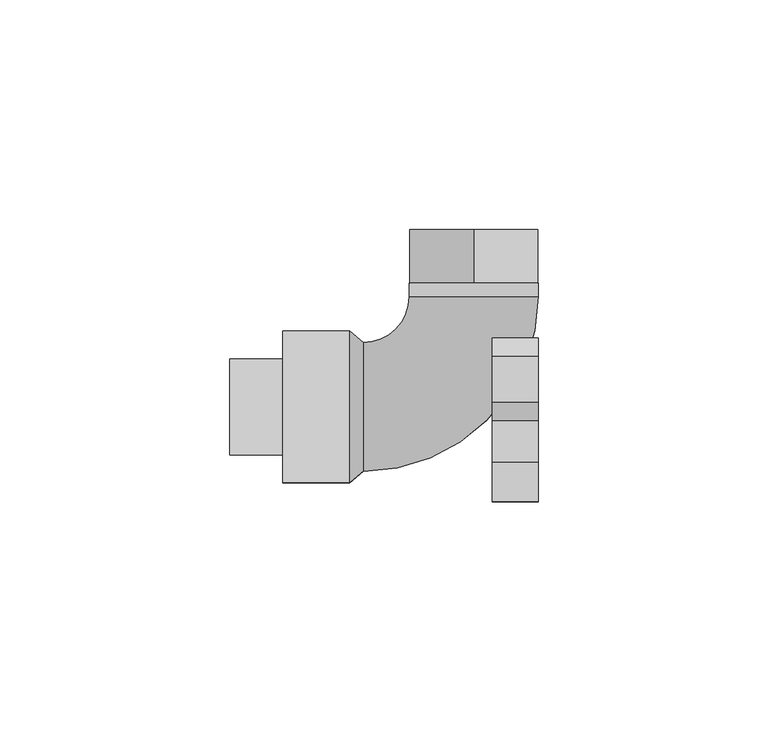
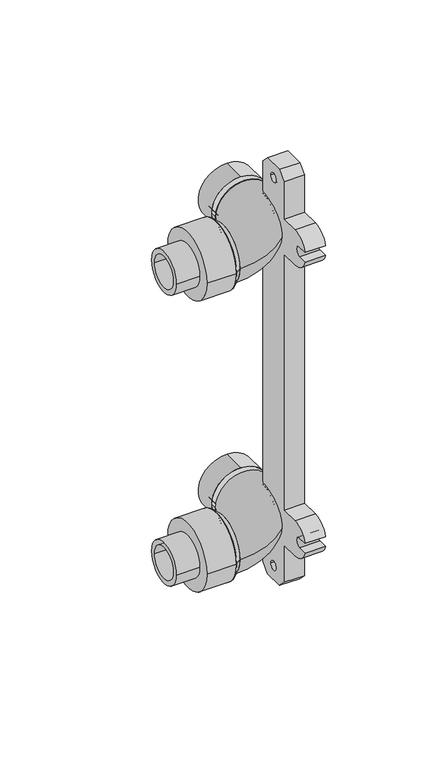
"""IFC4 building model written with IfcOpenShell, lengths in millimetres: pipe fitting geometry, 44_Угольник комбинированный с креплением двойной НР : Белый цвет."""

from ifc_helpers import new_model, si_unit, point, frame, frame_2d, origin, origin_2d, place, context, project, spatial, polyline, circle_curve, ellipse_curve, trimmed, segment, composite_curve, outline, extrude, source, transform, mapped, element, save
from ifc_brep_helpers import plane_surface, revolved_surface, advanced_brep


def pipe_fitting_814f7617(model_context):
    return source(origin(), model_context, "Body", "SolidModel", [
        extrude(outline(composite_curve([segment(polyline([(-2.9486282, 141.0), (-11.9486282, 141.0)]), True, "CONTINUOUS"), segment(trimmed(circle_curve(frame_2d((-11.9486282, 150.0)), 9.0), [point((-11.9486282, 141.0))], [point((-20.5944365, 147.5))], False, "CARTESIAN"), True, "CONTINUOUS"), segment(polyline([(-20.5944365, 147.5), (-15.9486282, 147.5)]), True, "CONTINUOUS"), segment(trimmed(circle_curve(frame_2d((-15.9486282, 150.0)), 2.5), [point((-15.9486282, 147.5))], [point((-15.9486282, 152.5))], True, "CARTESIAN"), True, "CONTINUOUS"), segment(polyline([(-15.9486282, 152.5), (-20.5944365, 152.5)]), True, "CONTINUOUS"), segment(trimmed(circle_curve(frame_2d((-11.9486282, 150.0)), 9.0), [point((-20.5944365, 152.5))], [point((-11.9486282, 159.0))], False, "CARTESIAN"), True, "CONTINUOUS"), segment(polyline([(-11.9486282, 159.0), (-2.9486282, 159.0), (-2.9486282, 178.25), (1.0513718, 182.25), (11.0513718, 182.25), (15.0513718, 178.25), (15.0513718, -28.25), (11.0513718, -32.25), (1.0513718, -32.25), (-2.9486282, -28.25), (-2.9486282, -9.0), (-11.9486282, -9.0)]), True, "CONTINUOUS"), segment(trimmed(circle_curve(frame_2d((-11.9486282, 0.0)), 9.0), [point((-11.9486282, -9.0))], [point((-20.5944365, -2.5))], False, "CARTESIAN"), True, "CONTINUOUS"), segment(polyline([(-20.5944365, -2.5), (-15.9486282, -2.5)]), True, "CONTINUOUS"), segment(trimmed(circle_curve(frame_2d((-15.9486282, 0.0)), 2.5), [point((-15.9486282, -2.5))], [point((-15.9486282, 2.5))], True, "CARTESIAN"), True, "CONTINUOUS"), segment(polyline([(-15.9486282, 2.5), (-20.5944365, 2.5)]), True, "CONTINUOUS"), segment(trimmed(circle_curve(frame_2d((-11.9486282, 0.0)), 9.0), [point((-20.5944365, 2.5))], [point((-11.9486282, 9.0))], False, "CARTESIAN"), True, "CONTINUOUS"), segment(polyline([(-11.9486282, 9.0), (-2.9486282, 9.0), (-2.9486282, 141.0)]), True, "CONTINUOUS")], self_intersect=False), holes=[composite_curve([segment(trimmed(circle_curve(frame_2d((6.0513718, 175.0)), 2.25), [point((3.8013718, 175.0))], [point((8.3013718, 175.0))], True, "CARTESIAN"), True, "CONTINUOUS"), segment(trimmed(circle_curve(frame_2d((6.0513718, 175.0)), 2.25), [point((8.3013718, 175.0))], [point((3.8013718, 175.0))], True, "CARTESIAN"), True, "CONTINUOUS")], self_intersect=False), composite_curve([segment(trimmed(circle_curve(frame_2d((6.0513718, -25.0)), 2.25), [point((3.8013718, -25.0))], [point((8.3013718, -25.0))], True, "CARTESIAN"), True, "CONTINUOUS"), segment(trimmed(circle_curve(frame_2d((6.0513718, -25.0)), 2.25), [point((8.3013718, -25.0))], [point((3.8013718, -25.0))], True, "CARTESIAN"), True, "CONTINUOUS")], self_intersect=False)]), frame((7.65, 0.0, 0.0), z_axis=(1.0, 0.0, 0.0), x_axis=(0.0, 1.0, 0.0)), (0.0, 0.0, 1.0), 10.0),
        advanced_brep(
        [(-23.35, -7.85, 150.0), (-20.35, -9.95, 150.0), (-20.35, 10.05, 150.0), (-23.35, 7.95, 150.0), (-20.35, -13.95, 150.0), (-20.35, 14.05, 150.0), (-23.35, -16.45, 150.0), (-23.35, 16.55, 150.0)],
        [
            (0, 1),
            (1, 2, circle_curve(frame((-20.35, 0.05, 150.0), z_axis=(1.0, 0.0, 1.2407852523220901e-12), x_axis=(0.0, -1.0, 0.0)), 10.0)),
            (2, 3),
            (3, 0, circle_curve(frame((-23.35, 0.05, 150.0), z_axis=(-1.0, 0.0, -1.2407852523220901e-12), x_axis=(0.0, -1.0, 0.0)), 7.9)),
            (0, 3, circle_curve(frame((-23.35, 0.05, 150.0), z_axis=(-1.0, 0.0, -1.2407852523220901e-12), x_axis=(0.0, 1.0, 0.0)), 7.9)),
            (2, 1, circle_curve(frame((-20.35, 0.05, 150.0), z_axis=(1.0, 0.0, 1.2407852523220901e-12), x_axis=(0.0, 1.0, 0.0)), 10.0)),
            (4, 5, circle_curve(frame((-20.35, 0.05, 150.0), z_axis=(1.0, 0.0, 0.0), x_axis=(0.0, -1.0, 0.0)), 14.0)),
            (5, 4, circle_curve(frame((-20.35, 0.05, 150.0), z_axis=(1.0, 0.0, 0.0), x_axis=(0.0, 1.0, 0.0)), 14.0)),
            (6, 7, circle_curve(frame((-23.35, 0.05, 150.0), z_axis=(-1.0, 0.0, 0.0), x_axis=(0.0, 1.0, 0.0)), 16.5)),
            (7, 6, circle_curve(frame((-23.35, 0.05, 150.0), z_axis=(-1.0, 0.0, 0.0), x_axis=(0.0, -1.0, 0.0)), 16.5)),
            (4, 6),
            (7, 5),
        ],
        [
            revolved_surface(polyline([(-20.35, -9.95, 150.0), (-23.35, -7.8500000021, 150.0)]), (-34.6357143, 0.05, 150.0), (1.0, 0.0, 1.2407852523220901e-12)),
            plane_surface(frame((-20.35, 0.05, 150.0), z_axis=(1.0, 0.0, 0.0), x_axis=(0.0, 0.0, -1.0))),
            plane_surface(frame((-23.35, 0.05, 150.0), z_axis=(-1.0, 0.0, 0.0), x_axis=(0.0, 0.0, -1.0))),
            revolved_surface(polyline([(-20.35, -13.95, 150.0), (-23.35, -16.45, 150.0)]), (-3.55, 0.05, 150.0), (-1.0, 0.0, 0.0)),
            revolved_surface(polyline([(-20.35, 14.05, 150.0), (-23.35, 16.55, 150.0)]), (-3.55, 0.05, 150.0), (-1.0, 0.0, 0.0)),
        ],
        [
            (0, [[1, 2, 3, 4]]),
            (0, [[-1, 5, -3, 6]]),
            (1, [[7, 8], [-2, -6]]),
            (2, [[9, 10], [-4, -5]]),
            (3, [[-7, 11, -10, 12]]),
            (4, [[-8, -12, -9, -11]]),
        ],
    ),
        advanced_brep(
        [(-20.35, -13.95, 150.0), (-20.35, 14.05, 150.0), (-20.35, 10.05, 150.0), (-20.35, -9.95, 150.0), (-23.35, -16.45, 150.0), (-23.35, 16.55, 150.0), (-23.35, -7.85, 150.0), (-23.35, 7.95, 150.0)],
        [
            (0, 1, circle_curve(frame((-20.35, 0.05, 150.0), z_axis=(1.0, 0.0, 0.0), x_axis=(0.0, -1.0, 0.0)), 14.0)),
            (1, 0, circle_curve(frame((-20.35, 0.05, 150.0), z_axis=(1.0, 0.0, 0.0), x_axis=(0.0, 1.0, 0.0)), 14.0)),
            (2, 3, circle_curve(frame((-20.35, 0.05, 150.0), z_axis=(-1.0, 0.0, -1.2407852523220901e-12), x_axis=(0.0, -1.0, 0.0)), 10.0)),
            (3, 2, circle_curve(frame((-20.35, 0.05, 150.0), z_axis=(-1.0, 0.0, -1.2407852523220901e-12), x_axis=(0.0, 1.0, 0.0)), 10.0)),
            (4, 5, circle_curve(frame((-23.35, 0.05, 150.0), z_axis=(-1.0, 0.0, 0.0), x_axis=(0.0, 1.0, 0.0)), 16.5)),
            (5, 4, circle_curve(frame((-23.35, 0.05, 150.0), z_axis=(-1.0, 0.0, 0.0), x_axis=(0.0, -1.0, 0.0)), 16.5)),
            (6, 7, circle_curve(frame((-23.35, 0.05, 150.0), z_axis=(1.0, 0.0, 1.2407852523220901e-12), x_axis=(0.0, -1.0, 0.0)), 7.9)),
            (7, 6, circle_curve(frame((-23.35, 0.05, 150.0), z_axis=(1.0, 0.0, 1.2407852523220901e-12), x_axis=(0.0, 1.0, 0.0)), 7.9)),
            (0, 4),
            (5, 1),
            (6, 3),
            (2, 7),
        ],
        [
            plane_surface(frame((-20.35, 0.05, 150.0), z_axis=(1.0, 0.0, 0.0), x_axis=(0.0, 0.0, -1.0))),
            plane_surface(frame((-23.35, 0.05, 150.0), z_axis=(-1.0, 0.0, 0.0), x_axis=(0.0, 0.0, -1.0))),
            revolved_surface(polyline([(-20.35, -13.95, 150.0), (-23.35, -16.45, 150.0)]), (-3.55, 0.05, 150.0), (-1.0, 0.0, 0.0)),
            revolved_surface(polyline([(-20.35, 14.05, 150.0), (-23.35, 16.55, 150.0)]), (-3.55, 0.05, 150.0), (-1.0, 0.0, 0.0)),
            revolved_surface(polyline([(-20.35, -9.95, 150.0), (-23.35, -7.8500000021, 150.0)]), (-34.6357143, 0.05, 150.0), (1.0, 0.0, 1.2407852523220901e-12)),
        ],
        [
            (0, [[1, 2], [3, 4]]),
            (1, [[5, 6], [7, 8]]),
            (2, [[-1, 9, -6, 10]]),
            (3, [[-2, -10, -5, -9]]),
            (4, [[11, -3, 12, -7]]),
            (4, [[-11, -8, -12, -4]]),
        ],
    ),
        extrude(outline(composite_curve([segment(trimmed(circle_curve(frame_2d((0.0, 150.0)), 10.4), [point((-10.4, 150.0))], [point((10.4, 150.0))], False, "CARTESIAN"), True, "CONTINUOUS"), segment(trimmed(circle_curve(frame_2d((0.0, 150.0)), 10.4), [point((10.4, 150.0))], [point((-10.4, 150.0))], False, "CARTESIAN"), True, "CONTINUOUS")], self_intersect=False), holes=[composite_curve([segment(trimmed(circle_curve(frame_2d((0.0, 150.0)), 7.9), [point((-7.9, 150.0))], [point((7.9, 150.0))], True, "CARTESIAN"), True, "CONTINUOUS"), segment(trimmed(circle_curve(frame_2d((0.0, 150.0)), 7.9), [point((7.9, 150.0))], [point((-7.9, 150.0))], True, "CARTESIAN"), True, "CONTINUOUS")], self_intersect=False)]), frame((-49.35, 0.0, 0.0), z_axis=(1.0, 0.0, 0.0), x_axis=(0.0, 1.0, 0.0)), (0.0, 0.0, 1.0), 11.5),
        extrude(outline(composite_curve([segment(trimmed(circle_curve(frame_2d((0.05, 150.0)), 16.5), [point((-16.45, 150.0))], [point((16.55, 150.0))], False, "CARTESIAN"), True, "CONTINUOUS"), segment(trimmed(circle_curve(frame_2d((0.05, 150.0)), 16.5), [point((16.55, 150.0))], [point((-16.45, 150.0))], False, "CARTESIAN"), True, "CONTINUOUS")], self_intersect=False), holes=[composite_curve([segment(trimmed(circle_curve(frame_2d((0.05, 150.0)), 7.9), [point((-7.85, 150.0))], [point((7.95, 150.0))], True, "CARTESIAN"), True, "CONTINUOUS"), segment(trimmed(circle_curve(frame_2d((0.05, 150.0)), 7.9), [point((7.95, 150.0))], [point((-7.85, 150.0))], True, "CARTESIAN"), True, "CONTINUOUS")], self_intersect=False)]), frame((-37.85, 0.0, 0.0), z_axis=(1.0, 0.0, 0.0), x_axis=(0.0, 1.0, 0.0)), (0.0, 0.0, 1.0), 14.5),
        extrude(outline(composite_curve([segment(trimmed(circle_curve(frame_2d((0.0, 150.0)), 10.4), [point((-10.4, 150.0))], [point((10.4, 150.0))], False, "CARTESIAN"), True, "CONTINUOUS"), segment(trimmed(circle_curve(frame_2d((0.0, 150.0)), 10.4), [point((10.4, 150.0))], [point((-10.4, 150.0))], False, "CARTESIAN"), True, "CONTINUOUS")], self_intersect=False), holes=[composite_curve([segment(trimmed(circle_curve(frame_2d((0.0, 150.0)), 7.9), [point((-7.9, 150.0))], [point((7.9, 150.0))], True, "CARTESIAN"), True, "CONTINUOUS"), segment(trimmed(circle_curve(frame_2d((0.0, 150.0)), 7.9), [point((7.9, 150.0))], [point((-7.9, 150.0))], True, "CARTESIAN"), True, "CONTINUOUS")], self_intersect=False)]), frame((-49.35, 0.0, 0.0), z_axis=(1.0, 0.0, 0.0), x_axis=(0.0, 1.0, 0.0)), (0.0, 0.0, 1.0), 11.5),
        extrude(outline(composite_curve([segment(trimmed(circle_curve(frame_2d((0.05, 150.0)), 16.5), [point((-16.45, 150.0))], [point((16.55, 150.0))], False, "CARTESIAN"), True, "CONTINUOUS"), segment(trimmed(circle_curve(frame_2d((0.05, 150.0)), 16.5), [point((16.55, 150.0))], [point((-16.45, 150.0))], False, "CARTESIAN"), True, "CONTINUOUS")], self_intersect=False), holes=[composite_curve([segment(trimmed(circle_curve(frame_2d((0.05, 150.0)), 7.9), [point((-7.85, 150.0))], [point((7.95, 150.0))], True, "CARTESIAN"), True, "CONTINUOUS"), segment(trimmed(circle_curve(frame_2d((0.05, 150.0)), 7.9), [point((7.95, 150.0))], [point((-7.85, 150.0))], True, "CARTESIAN"), True, "CONTINUOUS")], self_intersect=False)]), frame((-37.85, 0.0, 0.0), z_axis=(1.0, 0.0, 0.0), x_axis=(0.0, 1.0, 0.0)), (0.0, 0.0, 1.0), 14.5),
        advanced_brep(
        [(-20.35, -13.95, 0.0), (-20.35, 14.05, 0.0), (-20.35, 10.05, 0.0), (-20.35, -9.95, 0.0), (-23.35, -16.45, 0.0), (-23.35, 16.55, 0.0), (-23.35, -7.85, 0.0), (-23.35, 7.95, 0.0)],
        [
            (0, 1, circle_curve(frame((-20.35, 0.05, 0.0), z_axis=(1.0, 0.0, 0.0), x_axis=(0.0, -1.0, 0.0)), 14.0)),
            (1, 0, circle_curve(frame((-20.35, 0.05, 0.0), z_axis=(1.0, 0.0, 0.0), x_axis=(0.0, 1.0, 0.0)), 14.0)),
            (2, 3, circle_curve(frame((-20.35, 0.05, 0.0), z_axis=(-1.0, 0.0, -1.2355450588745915e-12), x_axis=(0.0, -1.0, 0.0)), 10.0)),
            (3, 2, circle_curve(frame((-20.35, 0.05, 0.0), z_axis=(-1.0, 0.0, -1.2355450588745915e-12), x_axis=(0.0, 1.0, 0.0)), 10.0)),
            (4, 5, circle_curve(frame((-23.35, 0.05, 0.0), z_axis=(-1.0, 0.0, 0.0), x_axis=(0.0, 1.0, 0.0)), 16.5)),
            (5, 4, circle_curve(frame((-23.35, 0.05, 0.0), z_axis=(-1.0, 0.0, 0.0), x_axis=(0.0, -1.0, 0.0)), 16.5)),
            (6, 7, circle_curve(frame((-23.35, 0.05, 0.0), z_axis=(1.0, 0.0, 1.2355450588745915e-12), x_axis=(0.0, -1.0, 0.0)), 7.9)),
            (7, 6, circle_curve(frame((-23.35, 0.05, 0.0), z_axis=(1.0, 0.0, 1.2355450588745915e-12), x_axis=(0.0, 1.0, 0.0)), 7.9)),
            (0, 4),
            (5, 1),
            (6, 3),
            (2, 7),
        ],
        [
            plane_surface(frame((-20.35, 0.05, 0.0), z_axis=(1.0, 0.0, 0.0), x_axis=(0.0, 0.0, -1.0))),
            plane_surface(frame((-23.35, 0.05, 0.0), z_axis=(-1.0, 0.0, 0.0), x_axis=(0.0, 0.0, -1.0))),
            revolved_surface(polyline([(-20.35, -13.95, 0.0), (-23.35, -16.45, 0.0)]), (-3.55, 0.05, 0.0), (-1.0, 0.0, 0.0)),
            revolved_surface(polyline([(-20.35, 14.05, 0.0), (-23.35, 16.55, 0.0)]), (-3.55, 0.05, 0.0), (-1.0, 0.0, 0.0)),
            revolved_surface(polyline([(-20.35, -9.95, 0.0), (-23.35, -7.8500000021, 0.0)]), (-34.6357143, 0.05, 0.0), (1.0, 0.0, 1.2355450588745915e-12)),
        ],
        [
            (0, [[1, 2], [3, 4]]),
            (1, [[5, 6], [7, 8]]),
            (2, [[-1, 9, -6, 10]]),
            (3, [[-2, -10, -5, -9]]),
            (4, [[11, -3, 12, -7]]),
            (4, [[-11, -8, -12, -4]]),
        ],
    ),
        extrude(outline(composite_curve([segment(trimmed(circle_curve(frame_2d((150.0, 3.65)), 14.0), [point((150.0, -10.35))], [point((150.0, 17.65))], False, "CARTESIAN"), True, "CONTINUOUS"), segment(trimmed(circle_curve(frame_2d((150.0, 3.65)), 14.0), [point((150.0, 17.65))], [point((150.0, -10.35))], False, "CARTESIAN"), True, "CONTINUOUS")], self_intersect=False), holes=[composite_curve([segment(trimmed(circle_curve(frame_2d((150.0, 3.65)), 10.0), [point((150.0, 13.65))], [point((150.0, -6.35))], True, "CARTESIAN"), True, "CONTINUOUS"), segment(trimmed(circle_curve(frame_2d((150.0, 3.65)), 10.0), [point((150.0, -6.35))], [point((150.0, 13.65))], True, "CARTESIAN"), True, "CONTINUOUS")], self_intersect=False)]), frame((0.0, 24.0, 0.0), z_axis=(0.0, 1.0, 0.0), x_axis=(0.0, 0.0, 1.0)), (0.0, 0.0, 1.0), 3.0),
        extrude(outline(composite_curve([segment(trimmed(circle_curve(origin_2d(), 10.4), [point((-10.4, 0.0))], [point((10.4, 0.0))], False, "CARTESIAN"), True, "CONTINUOUS"), segment(trimmed(circle_curve(origin_2d(), 10.4), [point((10.4, 0.0))], [point((-10.4, 0.0))], False, "CARTESIAN"), True, "CONTINUOUS")], self_intersect=False), holes=[composite_curve([segment(trimmed(circle_curve(origin_2d(), 7.9), [point((-7.9, 0.0))], [point((7.9, 0.0))], True, "CARTESIAN"), True, "CONTINUOUS"), segment(trimmed(circle_curve(origin_2d(), 7.9), [point((7.9, 0.0))], [point((-7.9, 0.0))], True, "CARTESIAN"), True, "CONTINUOUS")], self_intersect=False)]), frame((-49.35, 0.0, 0.0), z_axis=(1.0, 0.0, 0.0), x_axis=(0.0, 1.0, 0.0)), (0.0, 0.0, 1.0), 11.5),
        advanced_brep(
        [(-10.35, 24.0, 150.0), (17.65, 24.0, 150.0), (-6.35, 24.0, 150.0), (13.65, 24.0, 150.0), (-20.35, 14.0, 150.0), (-20.35, -14.0, 150.0), (-20.35, 10.0, 150.0), (-20.35, -10.0, 150.0)],
        [
            (0, 1, circle_curve(frame((3.65, 24.0, 150.0), z_axis=(0.0, 1.0, 0.0), x_axis=(1.0, 0.0, 0.0)), 14.0)),
            (1, 0, circle_curve(frame((3.65, 24.0, 150.0), z_axis=(0.0, 1.0, 0.0), x_axis=(1.0, 0.0, 0.0)), 14.0)),
            (2, 3, circle_curve(frame((3.65, 24.0, 150.0), z_axis=(0.0, -1.0, 0.0), x_axis=(1.0, 0.0, 0.0)), 10.0)),
            (3, 2, circle_curve(frame((3.65, 24.0, 150.0), z_axis=(0.0, -1.0, 0.0), x_axis=(1.0, 0.0, 0.0)), 10.0)),
            (4, 5, circle_curve(frame((-20.35, 0.0, 150.0), z_axis=(-1.0, 0.0, 0.0), x_axis=(0.0, -1.0, 0.0)), 14.0)),
            (5, 4, circle_curve(frame((-20.35, 0.0, 150.0), z_axis=(-1.0, 0.0, 0.0), x_axis=(0.0, -1.0, 0.0)), 14.0)),
            (6, 7, circle_curve(frame((-20.35, 0.0, 150.0), z_axis=(1.0, 0.0, 0.0), x_axis=(0.0, -1.0, 0.0)), 10.0)),
            (7, 6, circle_curve(frame((-20.35, 0.0, 150.0), z_axis=(1.0, 0.0, 0.0), x_axis=(0.0, -1.0, 0.0)), 10.0)),
            (5, 1, circle_curve(frame((-20.35, 24.0, 150.0), z_axis=(0.0, 0.0, 1.0), x_axis=(1.0, 0.0, 0.0)), 38.0)),
            (0, 4, circle_curve(frame((-20.35, 24.0, 150.0), z_axis=(0.0, 0.0, -1.0), x_axis=(1.0, 0.0, 0.0)), 10.0)),
            (7, 3, circle_curve(frame((-20.35, 24.0, 150.0), z_axis=(0.0, 0.0, 1.0), x_axis=(1.0, 0.0, 0.0)), 34.0)),
            (2, 6, circle_curve(frame((-20.35, 24.0, 150.0), z_axis=(0.0, 0.0, -1.0), x_axis=(1.0, 0.0, 0.0)), 14.0)),
        ],
        [
            plane_surface(frame((3.65, 24.0, 150.0), z_axis=(0.0, 1.0, 0.0), x_axis=(0.0, 0.0, 1.0))),
            plane_surface(frame((-20.35, 0.0, 150.0), z_axis=(-1.0, 0.0, 0.0), x_axis=(0.0, 0.0, 1.0))),
            revolved_surface(trimmed(ellipse_curve(frame((3.65, 24.0, 150.0), z_axis=(0.0, 1.0, 0.0), x_axis=(1.0, 0.0, 0.0)), 14.0, 14.0), [point((-10.35, 24.0, 150.0))], [point((17.65, 24.0, 150.0))], True, "CARTESIAN"), (-20.35, 24.0, 150.0), (0.0, 0.0, -1.0)),
            revolved_surface(trimmed(ellipse_curve(frame((3.65, 24.0, 150.0), z_axis=(0.0, 1.0, 0.0), x_axis=(1.0, 0.0, 0.0)), 14.0, 14.0), [point((17.65, 24.0, 150.0))], [point((-10.35, 24.0, 150.0))], True, "CARTESIAN"), (-20.35, 24.0, 150.0), (0.0, 0.0, -1.0)),
            revolved_surface(trimmed(ellipse_curve(frame((3.65, 24.0, 150.0), z_axis=(0.0, -1.0, 0.0), x_axis=(1.0, 0.0, 0.0)), 10.0, 10.0), [point((-6.35, 24.0, 150.0))], [point((13.65, 24.0, 150.0))], True, "CARTESIAN"), (-20.35, 24.0, 150.0), (0.0, 0.0, -1.0)),
            revolved_surface(trimmed(ellipse_curve(frame((3.65, 24.0, 150.0), z_axis=(0.0, -1.0, 0.0), x_axis=(1.0, 0.0, 0.0)), 10.0, 10.0), [point((13.65, 24.0, 150.0))], [point((-6.35, 24.0, 150.0))], True, "CARTESIAN"), (-20.35, 24.0, 150.0), (0.0, 0.0, -1.0)),
        ],
        [
            (0, [[1, 2], [3, 4]]),
            (1, [[5, 6], [7, 8]]),
            (2, [[9, -1, 10, -6]]),
            (3, [[-10, -2, -9, -5]]),
            (4, [[11, -3, 12, -8]]),
            (5, [[-12, -4, -11, -7]]),
        ],
    ),
        extrude(outline(composite_curve([segment(trimmed(circle_curve(frame_2d((150.0, 3.65)), 14.0), [point((136.0, 3.65))], [point((164.0, 3.65))], False, "CARTESIAN"), True, "CONTINUOUS"), segment(trimmed(circle_curve(frame_2d((150.0, 3.65)), 14.0), [point((164.0, 3.65))], [point((136.0, 3.65))], False, "CARTESIAN"), True, "CONTINUOUS")], self_intersect=False), holes=[composite_curve([segment(trimmed(circle_curve(frame_2d((150.0, 3.65)), 10.0), [point((140.0, 3.65))], [point((160.0, 3.65))], True, "CARTESIAN"), True, "CONTINUOUS"), segment(trimmed(circle_curve(frame_2d((150.0, 3.65)), 10.0), [point((160.0, 3.65))], [point((140.0, 3.65))], True, "CARTESIAN"), True, "CONTINUOUS")], self_intersect=False)]), frame((0.0, 27.0, 0.0), z_axis=(0.0, 1.0, 0.0), x_axis=(0.0, 0.0, 1.0)), (0.0, 0.0, 1.0), 11.55),
        extrude(outline(composite_curve([segment(trimmed(circle_curve(frame_2d((0.05, 0.0)), 16.5), [point((-16.45, 0.0))], [point((16.55, 0.0))], False, "CARTESIAN"), True, "CONTINUOUS"), segment(trimmed(circle_curve(frame_2d((0.05, 0.0)), 16.5), [point((16.55, 0.0))], [point((-16.45, 0.0))], False, "CARTESIAN"), True, "CONTINUOUS")], self_intersect=False), holes=[composite_curve([segment(trimmed(circle_curve(frame_2d((0.05, 0.0)), 7.9), [point((-7.85, 0.0))], [point((7.95, 0.0))], True, "CARTESIAN"), True, "CONTINUOUS"), segment(trimmed(circle_curve(frame_2d((0.05, 0.0)), 7.9), [point((7.95, 0.0))], [point((-7.85, 0.0))], True, "CARTESIAN"), True, "CONTINUOUS")], self_intersect=False)]), frame((-37.85, 0.0, 0.0), z_axis=(1.0, 0.0, 0.0), x_axis=(0.0, 1.0, 0.0)), (0.0, 0.0, 1.0), 14.5),
        extrude(outline(composite_curve([segment(trimmed(circle_curve(origin_2d(), 10.4), [point((-10.4, 0.0))], [point((10.4, 0.0))], False, "CARTESIAN"), True, "CONTINUOUS"), segment(trimmed(circle_curve(origin_2d(), 10.4), [point((10.4, 0.0))], [point((-10.4, 0.0))], False, "CARTESIAN"), True, "CONTINUOUS")], self_intersect=False), holes=[composite_curve([segment(trimmed(circle_curve(origin_2d(), 7.9), [point((-7.9, 0.0))], [point((7.9, 0.0))], True, "CARTESIAN"), True, "CONTINUOUS"), segment(trimmed(circle_curve(origin_2d(), 7.9), [point((7.9, 0.0))], [point((-7.9, 0.0))], True, "CARTESIAN"), True, "CONTINUOUS")], self_intersect=False)]), frame((-49.35, 0.0, 0.0), z_axis=(1.0, 0.0, 0.0), x_axis=(0.0, 1.0, 0.0)), (0.0, 0.0, 1.0), 11.5),
        advanced_brep(
        [(-10.35, 24.0, 0.0), (17.65, 24.0, 0.0), (-6.35, 24.0, 0.0), (13.65, 24.0, 0.0), (-20.35, 14.0, 0.0), (-20.35, -14.0, 0.0), (-20.35, 10.0, 0.0), (-20.35, -10.0, 0.0)],
        [
            (0, 1, circle_curve(frame((3.65, 24.0, 0.0), z_axis=(0.0, 1.0, 0.0), x_axis=(1.0, 0.0, 0.0)), 14.0)),
            (1, 0, circle_curve(frame((3.65, 24.0, 0.0), z_axis=(0.0, 1.0, 0.0), x_axis=(1.0, 0.0, 0.0)), 14.0)),
            (2, 3, circle_curve(frame((3.65, 24.0, 0.0), z_axis=(0.0, -1.0, 0.0), x_axis=(1.0, 0.0, 0.0)), 10.0)),
            (3, 2, circle_curve(frame((3.65, 24.0, 0.0), z_axis=(0.0, -1.0, 0.0), x_axis=(1.0, 0.0, 0.0)), 10.0)),
            (4, 5, circle_curve(frame((-20.35, 0.0, 0.0), z_axis=(-1.0, 0.0, 0.0), x_axis=(0.0, -1.0, 0.0)), 14.0)),
            (5, 4, circle_curve(frame((-20.35, 0.0, 0.0), z_axis=(-1.0, 0.0, 0.0), x_axis=(0.0, -1.0, 0.0)), 14.0)),
            (6, 7, circle_curve(frame((-20.35, 0.0, 0.0), z_axis=(1.0, 0.0, 0.0), x_axis=(0.0, -1.0, 0.0)), 10.0)),
            (7, 6, circle_curve(frame((-20.35, 0.0, 0.0), z_axis=(1.0, 0.0, 0.0), x_axis=(0.0, -1.0, 0.0)), 10.0)),
            (5, 1, circle_curve(frame((-20.35, 24.0, 0.0), z_axis=(0.0, 0.0, 1.0), x_axis=(1.0, 0.0, 0.0)), 38.0)),
            (0, 4, circle_curve(frame((-20.35, 24.0, 0.0), z_axis=(0.0, 0.0, -1.0), x_axis=(1.0, 0.0, 0.0)), 10.0)),
            (7, 3, circle_curve(frame((-20.35, 24.0, 0.0), z_axis=(0.0, 0.0, 1.0), x_axis=(1.0, 0.0, 0.0)), 34.0)),
            (2, 6, circle_curve(frame((-20.35, 24.0, 0.0), z_axis=(0.0, 0.0, -1.0), x_axis=(1.0, 0.0, 0.0)), 14.0)),
        ],
        [
            plane_surface(frame((3.65, 24.0, 0.0), z_axis=(0.0, 1.0, 0.0), x_axis=(0.0, 0.0, 1.0))),
            plane_surface(frame((-20.35, 0.0, 0.0), z_axis=(-1.0, 0.0, 0.0), x_axis=(0.0, 0.0, 1.0))),
            revolved_surface(trimmed(ellipse_curve(frame((3.65, 24.0, 0.0), z_axis=(0.0, 1.0, 0.0), x_axis=(1.0, 0.0, 0.0)), 14.0, 14.0), [point((-10.35, 24.0, 0.0))], [point((17.65, 24.0, 0.0))], True, "CARTESIAN"), (-20.35, 24.0, 0.0), (0.0, 0.0, -1.0)),
            revolved_surface(trimmed(ellipse_curve(frame((3.65, 24.0, 0.0), z_axis=(0.0, 1.0, 0.0), x_axis=(1.0, 0.0, 0.0)), 14.0, 14.0), [point((17.65, 24.0, 0.0))], [point((-10.35, 24.0, 0.0))], True, "CARTESIAN"), (-20.35, 24.0, 0.0), (0.0, 0.0, -1.0)),
            revolved_surface(trimmed(ellipse_curve(frame((3.65, 24.0, 0.0), z_axis=(0.0, -1.0, 0.0), x_axis=(1.0, 0.0, 0.0)), 10.0, 10.0), [point((-6.35, 24.0, 0.0))], [point((13.65, 24.0, 0.0))], True, "CARTESIAN"), (-20.35, 24.0, 0.0), (0.0, 0.0, -1.0)),
            revolved_surface(trimmed(ellipse_curve(frame((3.65, 24.0, 0.0), z_axis=(0.0, -1.0, 0.0), x_axis=(1.0, 0.0, 0.0)), 10.0, 10.0), [point((13.65, 24.0, 0.0))], [point((-6.35, 24.0, 0.0))], True, "CARTESIAN"), (-20.35, 24.0, 0.0), (0.0, 0.0, -1.0)),
        ],
        [
            (0, [[1, 2], [3, 4]]),
            (1, [[5, 6], [7, 8]]),
            (2, [[9, -1, 10, -6]]),
            (3, [[-10, -2, -9, -5]]),
            (4, [[11, -3, 12, -8]]),
            (5, [[-12, -4, -11, -7]]),
        ],
    ),
        advanced_brep(
        [(-20.35, -13.95, 0.0), (-20.35, 14.05, 0.0), (-20.35, 10.05, 0.0), (-20.35, -9.95, 0.0), (-23.35, -16.45, 0.0), (-23.35, 16.55, 0.0), (-23.35, -7.85, 0.0), (-23.35, 7.95, 0.0)],
        [
            (0, 1, circle_curve(frame((-20.35, 0.05, 0.0), z_axis=(1.0, 0.0, 0.0), x_axis=(0.0, -1.0, 0.0)), 14.0)),
            (1, 0, circle_curve(frame((-20.35, 0.05, 0.0), z_axis=(1.0, 0.0, 0.0), x_axis=(0.0, 1.0, 0.0)), 14.0)),
            (2, 3, circle_curve(frame((-20.35, 0.05, 0.0), z_axis=(-1.0, 0.0, -1.2355450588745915e-12), x_axis=(0.0, -1.0, 0.0)), 10.0)),
            (3, 2, circle_curve(frame((-20.35, 0.05, 0.0), z_axis=(-1.0, 0.0, -1.2355450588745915e-12), x_axis=(0.0, 1.0, 0.0)), 10.0)),
            (4, 5, circle_curve(frame((-23.35, 0.05, 0.0), z_axis=(-1.0, 0.0, 0.0), x_axis=(0.0, 1.0, 0.0)), 16.5)),
            (5, 4, circle_curve(frame((-23.35, 0.05, 0.0), z_axis=(-1.0, 0.0, 0.0), x_axis=(0.0, -1.0, 0.0)), 16.5)),
            (6, 7, circle_curve(frame((-23.35, 0.05, 0.0), z_axis=(1.0, 0.0, 1.2355450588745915e-12), x_axis=(0.0, -1.0, 0.0)), 7.9)),
            (7, 6, circle_curve(frame((-23.35, 0.05, 0.0), z_axis=(1.0, 0.0, 1.2355450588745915e-12), x_axis=(0.0, 1.0, 0.0)), 7.9)),
            (0, 4),
            (5, 1),
            (6, 3),
            (2, 7),
        ],
        [
            plane_surface(frame((-20.35, 0.05, 0.0), z_axis=(1.0, 0.0, 0.0), x_axis=(0.0, 0.0, -1.0))),
            plane_surface(frame((-23.35, 0.05, 0.0), z_axis=(-1.0, 0.0, 0.0), x_axis=(0.0, 0.0, -1.0))),
            revolved_surface(polyline([(-20.35, -13.95, 0.0), (-23.35, -16.45, 0.0)]), (-3.55, 0.05, 0.0), (-1.0, 0.0, 0.0)),
            revolved_surface(polyline([(-20.35, 14.05, 0.0), (-23.35, 16.55, 0.0)]), (-3.55, 0.05, 0.0), (-1.0, 0.0, 0.0)),
            revolved_surface(polyline([(-20.35, -9.95, 0.0), (-23.35, -7.8500000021, 0.0)]), (-34.6357143, 0.05, 0.0), (1.0, 0.0, 1.2355450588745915e-12)),
        ],
        [
            (0, [[1, 2], [3, 4]]),
            (1, [[5, 6], [7, 8]]),
            (2, [[-1, 9, -6, 10]]),
            (3, [[-2, -10, -5, -9]]),
            (4, [[11, -3, 12, -7]]),
            (4, [[-11, -8, -12, -4]]),
        ],
    ),
        extrude(outline(composite_curve([segment(trimmed(circle_curve(frame_2d((0.0, 3.65)), 14.0), [point((0.0, -10.35))], [point((0.0, 17.65))], False, "CARTESIAN"), True, "CONTINUOUS"), segment(trimmed(circle_curve(frame_2d((0.0, 3.65)), 14.0), [point((0.0, 17.65))], [point((0.0, -10.35))], False, "CARTESIAN"), True, "CONTINUOUS")], self_intersect=False), holes=[composite_curve([segment(trimmed(circle_curve(frame_2d((0.0, 3.65)), 10.0), [point((0.0, 13.65))], [point((0.0, -6.35))], True, "CARTESIAN"), True, "CONTINUOUS"), segment(trimmed(circle_curve(frame_2d((0.0, 3.65)), 10.0), [point((0.0, -6.35))], [point((0.0, 13.65))], True, "CARTESIAN"), True, "CONTINUOUS")], self_intersect=False)]), frame((0.0, 24.0, 0.0), z_axis=(0.0, 1.0, 0.0), x_axis=(0.0, 0.0, 1.0)), (0.0, 0.0, 1.0), 3.0),
        extrude(outline(composite_curve([segment(trimmed(circle_curve(frame_2d((0.0, 3.65)), 14.0), [point((-14.0, 3.65))], [point((14.0, 3.65))], False, "CARTESIAN"), True, "CONTINUOUS"), segment(trimmed(circle_curve(frame_2d((0.0, 3.65)), 14.0), [point((14.0, 3.65))], [point((-14.0, 3.65))], False, "CARTESIAN"), True, "CONTINUOUS")], self_intersect=False), holes=[composite_curve([segment(trimmed(circle_curve(frame_2d((0.0, 3.65)), 10.0), [point((-10.0, 3.65))], [point((10.0, 3.65))], True, "CARTESIAN"), True, "CONTINUOUS"), segment(trimmed(circle_curve(frame_2d((0.0, 3.65)), 10.0), [point((10.0, 3.65))], [point((-10.0, 3.65))], True, "CARTESIAN"), True, "CONTINUOUS")], self_intersect=False)]), frame((0.0, 27.0, 0.0), z_axis=(0.0, 1.0, 0.0), x_axis=(0.0, 0.0, 1.0)), (0.0, 0.0, 1.0), 11.55),
        extrude(outline(composite_curve([segment(trimmed(circle_curve(frame_2d((0.05, 0.0)), 16.5), [point((-16.45, 0.0))], [point((16.55, 0.0))], False, "CARTESIAN"), True, "CONTINUOUS"), segment(trimmed(circle_curve(frame_2d((0.05, 0.0)), 16.5), [point((16.55, 0.0))], [point((-16.45, 0.0))], False, "CARTESIAN"), True, "CONTINUOUS")], self_intersect=False), holes=[composite_curve([segment(trimmed(circle_curve(frame_2d((0.05, 0.0)), 7.9), [point((-7.85, 0.0))], [point((7.95, 0.0))], True, "CARTESIAN"), True, "CONTINUOUS"), segment(trimmed(circle_curve(frame_2d((0.05, 0.0)), 7.9), [point((7.95, 0.0))], [point((-7.85, 0.0))], True, "CARTESIAN"), True, "CONTINUOUS")], self_intersect=False)]), frame((-37.85, 0.0, 0.0), z_axis=(1.0, 0.0, 0.0), x_axis=(0.0, 1.0, 0.0)), (0.0, 0.0, 1.0), 14.5),
    ])


if __name__ == "__main__":
    model = new_model("IFC4")
    model_context = context("Model", 3, world=origin())
    ifc_project = project(units=[si_unit("LENGTHUNIT", "METRE", prefix="MILLI")], contexts=[model_context])
    site = spatial("IfcSite", under=ifc_project)
    building = spatial("IfcBuilding", under=site)
    placement = place(None, origin())
    pipe_fitting_shape = pipe_fitting_814f7617(model_context)
    element("IfcPipeFitting", 1, ObjectType="44_Угольник комбинированный с креплением двойной НР : Белый цвет", at=placement, inside=building, context=model_context, shape_type="MappedRepresentation", body=[
        mapped(pipe_fitting_shape, transform((0.0, 0.0, 0.0), x_axis=(1.0, 0.0, 0.0), y_axis=(0.0, 1.0, 0.0), z_axis=(0.0, 0.0, 1.0))),
    ])
    save(model, "model.ifc")
